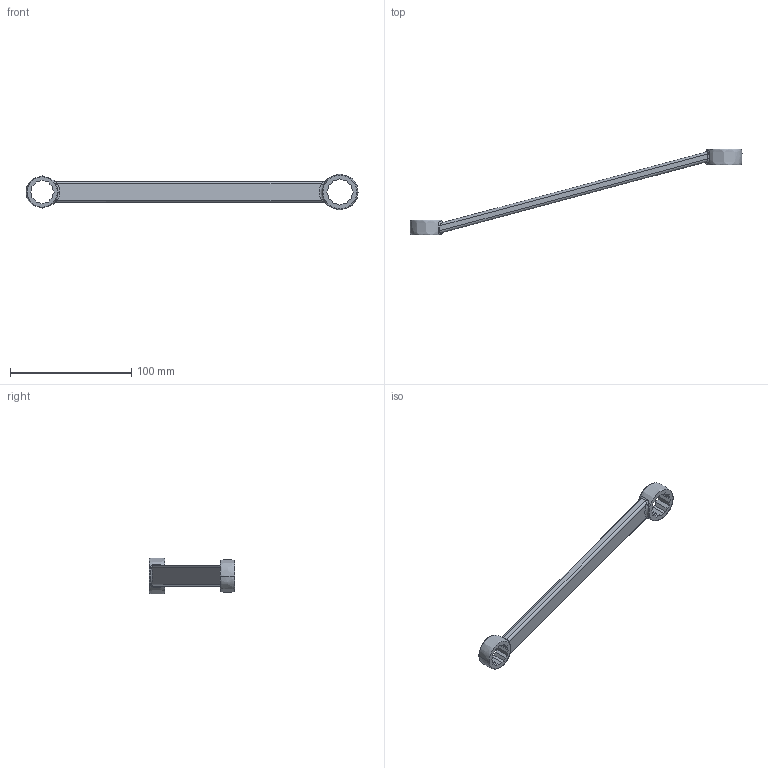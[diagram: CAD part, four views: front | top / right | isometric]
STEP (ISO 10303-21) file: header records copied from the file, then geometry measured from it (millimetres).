
FILE_DESCRIPTION (( 'STEP AP214' ), '1' );
FILE_NAME ('Offset-wrench_17x19.STEP', '2021-10-20T07:09:01', ( 'ASIS User' ), ( 'ASIS User' ), 'SwSTEP 2.0', 'SolidWorks 2021', '' );
FILE_SCHEMA (( 'AUTOMOTIVE_DESIGN' ));
Length unit declared in the file: millimetre
Products named in the file (1): Offset-wrench_17x19
Bounding box: 273.82 x 70.64 x 29.6 mm (x, y, z)
Volume: 37490.4 mm3; surface area: 15224.1 mm2
Topology: 1 solids, 1 shells, 80 faces, 218 edges, 140 vertices
Faces by surface type: plane 56, bspline 20, cylinder 4
Entity records: 3498 total; most frequent: CARTESIAN_POINT 1587, ORIENTED_EDGE 436, DIRECTION 322, EDGE_CURVE 218, VECTOR 152, LINE 152, VERTEX_POINT 140, AXIS2_PLACEMENT_3D 85
